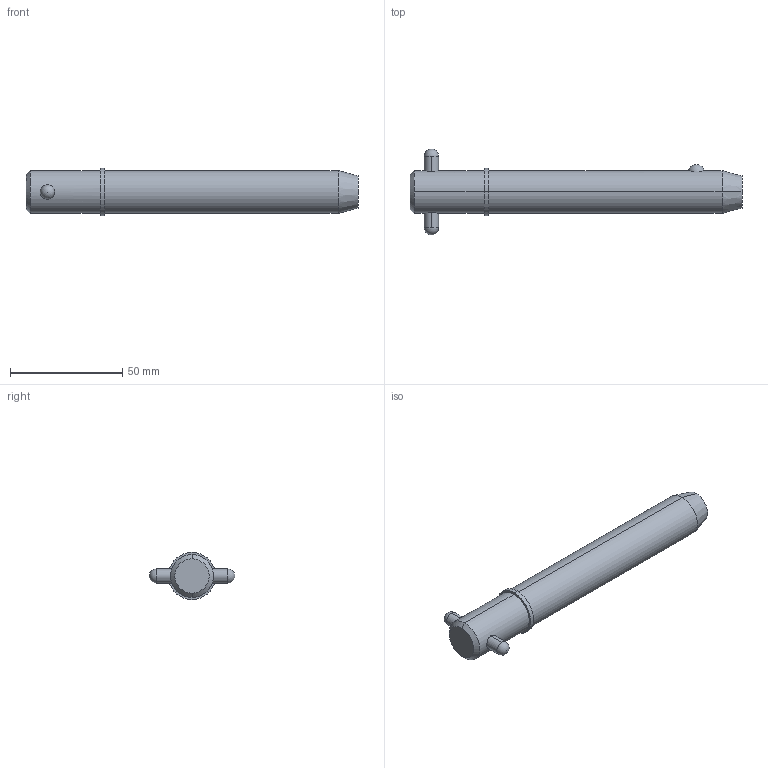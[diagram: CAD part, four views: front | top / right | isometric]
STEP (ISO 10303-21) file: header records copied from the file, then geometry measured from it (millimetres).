
FILE_DESCRIPTION (( 'STEP AP203' ), '1' );
FILE_NAME ('33018.W7535.step', '2024-11-19T17:20:34', ( '' ), ( '' ), 'SwSTEP 2.0', 'SolidWorks 2019', '' );
FILE_SCHEMA (( 'CONFIG_CONTROL_DESIGN' ));
Length unit declared in the file: millimetre
Products named in the file (3): Part1_33018.W7535; 33018.W7535; Part2_33018.W7535
Assembly tree (2 placements, depth 2):
  33018.W7535
    Part1_33018.W7535
    Part2_33018.W7535
Bounding box: 147.63 x 38.1 x 20.95 mm (x, y, z)
Volume: 42124.2 mm3; surface area: 10383.7 mm2
Topology: 2 solids, 2 shells, 22 faces, 47 edges, 30 vertices
Faces by surface type: cylinder 10, sphere 4, cone 4, plane 4
Entity records: 1041 total; most frequent: CARTESIAN_POINT 284, DIRECTION 110, ORIENTED_EDGE 82, AXIS2_PLACEMENT_3D 48, EDGE_CURVE 41, EDGE_LOOP 27, PERSON_AND_ORGANIZATION 26, VERTEX_POINT 26
